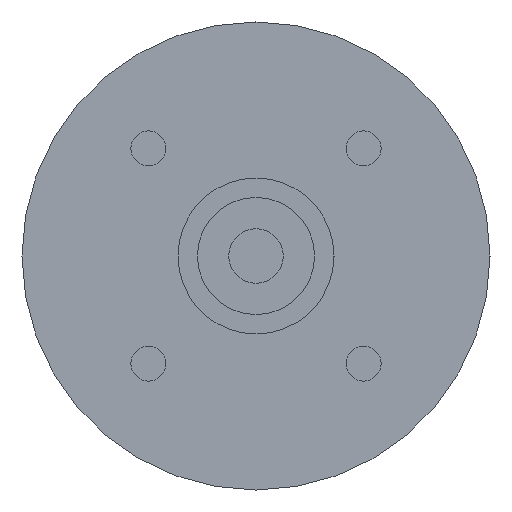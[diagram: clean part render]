
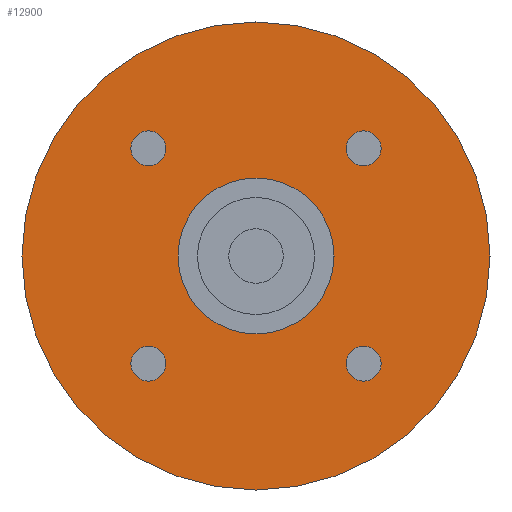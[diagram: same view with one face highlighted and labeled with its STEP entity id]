
A CAD part, left-side view. The second image highlights one B-rep face of the part: STEP entity #12900.
In plain terms, the highlighted planar face has unit normal (-1, 0, 0) as drawn and (0, 0, -1) by its records, which use the part's own axes.
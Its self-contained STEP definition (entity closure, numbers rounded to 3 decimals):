
#8700=CARTESIAN_POINT('',(0.,10.,-35.));
#8710=VERTEX_POINT('',#8700);
#8740=CARTESIAN_POINT('',(0.,0.,
-35.));
#8750=DIRECTION('',(0.,0.,1.));
#8760=DIRECTION('',(0.,1.,0.));
#8770=AXIS2_PLACEMENT_3D('',#8740,#8750,#8760);
#8780=CIRCLE('',#8770,10.);
#8790=CARTESIAN_POINT('',(0.,-10.,-35.));
#8800=VERTEX_POINT('',#8790);
#8810=EDGE_CURVE('',#8710,#8800,#8780,.T.);
#9100=CARTESIAN_POINT('',(-30.,0.,-35.));
#9110=VERTEX_POINT('',#9100);
#9330=CARTESIAN_POINT('',(30.,0.,-35.));
#9340=VERTEX_POINT('',#9330);
#9370=CARTESIAN_POINT('',(0.,0.,-35.
));
#9380=DIRECTION('',(0.,0.,1.));
#9390=DIRECTION('',(1.,0.,0.));
#9400=AXIS2_PLACEMENT_3D('',#9370,#9380,#9390);
#9410=CIRCLE('',#9400,30.);
#9420=CARTESIAN_POINT('',(0.,-30.,-35.));
#9430=VERTEX_POINT('',#9420);
#9440=EDGE_CURVE('',#9430,#9340,#9410,.T.);
#9460=EDGE_CURVE('',#9110,#9430,#9410,.T.);
#12010=CARTESIAN_POINT('',(13.789,11.539,-35.));
#12020=VERTEX_POINT('',#12010);
#12050=CARTESIAN_POINT('',(13.789,13.789,-35.));
#12060=DIRECTION('',(0.,0.,-1.));
#12070=DIRECTION('',(0.,1.,0.));
#12080=AXIS2_PLACEMENT_3D('',#12050,#12060,#12070);
#12090=CIRCLE('',#12080,2.25);
#12100=CARTESIAN_POINT('',(13.789,16.039,-35.));
#12110=VERTEX_POINT('',#12100);
#12120=EDGE_CURVE('',#12110,#12020,#12090,.T.);
#12240=CARTESIAN_POINT('',(0.,0.,
-35.));
#12250=DIRECTION('',(0.,0.,-1.));
#12260=DIRECTION('',(1.,0.,0.));
#12270=AXIS2_PLACEMENT_3D('',#12240,#12250,#12260);
#12280=PLANE('',#12270);
#12290=ORIENTED_EDGE('',*,*,#12120,.F.);
#12300=EDGE_CURVE('',#12020,#12110,#12090,.T.);
#12310=ORIENTED_EDGE('',*,*,#12300,.F.);
#12320=EDGE_LOOP('',(#12310,#12290));
#12330=FACE_BOUND('',#12320,.T.);
#12340=CARTESIAN_POINT('',(-13.789,13.789,-35.));
#12350=DIRECTION('',(0.,0.,-1.));
#12360=DIRECTION('',(-1.,0.,0.));
#12370=AXIS2_PLACEMENT_3D('',#12340,#12350,#12360);
#12380=CIRCLE('',#12370,2.25);
#12390=CARTESIAN_POINT('',(-16.039,13.789,-35.));
#12400=VERTEX_POINT('',#12390);
#12410=CARTESIAN_POINT('',(-11.539,13.789,-35.));
#12420=VERTEX_POINT('',#12410);
#12430=EDGE_CURVE('',#12400,#12420,#12380,.T.);
#12440=ORIENTED_EDGE('',*,*,#12430,.F.);
#12450=EDGE_CURVE('',#12420,#12400,#12380,.T.);
#12460=ORIENTED_EDGE('',*,*,#12450,.F.);
#12470=EDGE_LOOP('',(#12460,#12440));
#12480=FACE_BOUND('',#12470,.T.);
#12490=CARTESIAN_POINT('',(-13.789,-13.789,-35.));
#12500=DIRECTION('',(0.,0.,-1.));
#12510=DIRECTION('',(0.,-1.,0.));
#12520=AXIS2_PLACEMENT_3D('',#12490,#12500,#12510);
#12530=CIRCLE('',#12520,2.25);
#12540=CARTESIAN_POINT('',(-13.789,-16.039,-35.));
#12550=VERTEX_POINT('',#12540);
#12560=CARTESIAN_POINT('',(-13.789,-11.539,-35.));
#12570=VERTEX_POINT('',#12560);
#12580=EDGE_CURVE('',#12550,#12570,#12530,.T.);
#12590=ORIENTED_EDGE('',*,*,#12580,.F.);
#12600=EDGE_CURVE('',#12570,#12550,#12530,.T.);
#12610=ORIENTED_EDGE('',*,*,#12600,.F.);
#12620=EDGE_LOOP('',(#12610,#12590));
#12630=FACE_BOUND('',#12620,.T.);
#12640=ORIENTED_EDGE('',*,*,#8810,.T.);
#12650=EDGE_CURVE('',#8800,#8710,#8780,.T.);
#12660=ORIENTED_EDGE('',*,*,#12650,.T.);
#12670=EDGE_LOOP('',(#12660,#12640));
#12680=FACE_BOUND('',#12670,.T.);
#12690=CARTESIAN_POINT('',(13.789,-13.789,-35.));
#12700=DIRECTION('',(0.,0.,-1.));
#12710=DIRECTION('',(1.,0.,0.));
#12720=AXIS2_PLACEMENT_3D('',#12690,#12700,#12710);
#12730=CIRCLE('',#12720,2.25);
#12740=CARTESIAN_POINT('',(16.039,-13.789,-35.));
#12750=VERTEX_POINT('',#12740);
#12760=CARTESIAN_POINT('',(11.539,-13.789,-35.));
#12770=VERTEX_POINT('',#12760);
#12780=EDGE_CURVE('',#12750,#12770,#12730,.T.);
#12790=ORIENTED_EDGE('',*,*,#12780,.F.);
#12800=EDGE_CURVE('',#12770,#12750,#12730,.T.);
#12810=ORIENTED_EDGE('',*,*,#12800,.F.);
#12820=EDGE_LOOP('',(#12810,#12790));
#12830=FACE_BOUND('',#12820,.T.);
#12840=ORIENTED_EDGE('',*,*,#9440,.F.);
#12850=EDGE_CURVE('',#9340,#9110,#9410,.T.);
#12860=ORIENTED_EDGE('',*,*,#12850,.F.);
#12870=ORIENTED_EDGE('',*,*,#9460,.F.);
#12880=EDGE_LOOP('',(#12870,#12860,#12840));
#12890=FACE_OUTER_BOUND('',#12880,.T.);
#12900=ADVANCED_FACE('',(#12330,#12480,#12630,#12680,#12830,#12890),
#12280,.T.);
